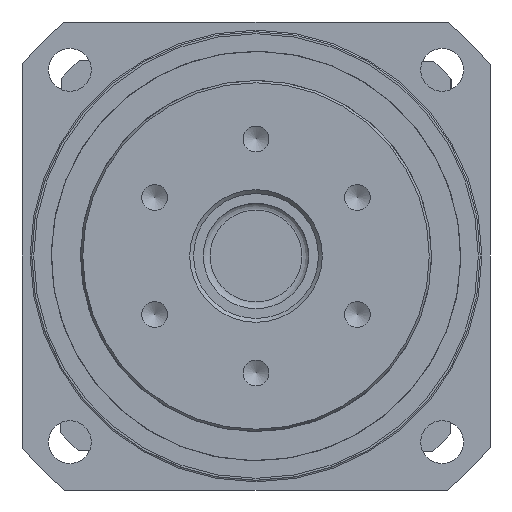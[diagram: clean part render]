
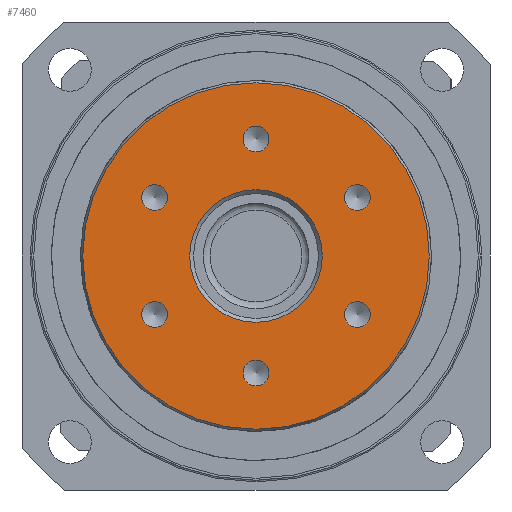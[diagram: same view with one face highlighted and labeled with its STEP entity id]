
A CAD part, left-side view. The second image highlights one B-rep face of the part: STEP entity #7460.
In plain terms, the highlighted planar face has unit normal (-1, 0, 0).
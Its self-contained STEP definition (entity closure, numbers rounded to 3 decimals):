
#670=FACE_BOUND('',#2014,.T.);
#671=FACE_BOUND('',#2015,.T.);
#672=FACE_BOUND('',#2016,.T.);
#673=FACE_BOUND('',#2017,.T.);
#674=FACE_BOUND('',#2018,.T.);
#675=FACE_BOUND('',#2019,.T.);
#676=FACE_BOUND('',#2020,.T.);
#1388=PLANE('',#8393);
#1565=FACE_OUTER_BOUND('',#2013,.T.);
#2013=EDGE_LOOP('',(#5529));
#2014=EDGE_LOOP('',(#5530,#5531));
#2015=EDGE_LOOP('',(#5532,#5533));
#2016=EDGE_LOOP('',(#5534,#5535));
#2017=EDGE_LOOP('',(#5536,#5537));
#2018=EDGE_LOOP('',(#5538,#5539));
#2019=EDGE_LOOP('',(#5540,#5541));
#2020=EDGE_LOOP('',(#5542));
#2589=CIRCLE('',#8357,3.324);
#2590=CIRCLE('',#8358,3.324);
#2593=CIRCLE('',#8363,3.324);
#2594=CIRCLE('',#8364,3.324);
#2597=CIRCLE('',#8369,3.324);
#2598=CIRCLE('',#8370,3.324);
#2601=CIRCLE('',#8375,3.324);
#2602=CIRCLE('',#8376,3.324);
#2605=CIRCLE('',#8381,3.324);
#2606=CIRCLE('',#8382,3.324);
#2609=CIRCLE('',#8387,3.324);
#2610=CIRCLE('',#8388,3.324);
#2611=CIRCLE('',#8390,17.);
#2614=CIRCLE('',#8394,44.423);
#3351=VERTEX_POINT('',#12429);
#3352=VERTEX_POINT('',#12430);
#3356=VERTEX_POINT('',#12442);
#3357=VERTEX_POINT('',#12443);
#3361=VERTEX_POINT('',#12455);
#3362=VERTEX_POINT('',#12456);
#3366=VERTEX_POINT('',#12468);
#3367=VERTEX_POINT('',#12469);
#3371=VERTEX_POINT('',#12481);
#3372=VERTEX_POINT('',#12482);
#3376=VERTEX_POINT('',#12494);
#3377=VERTEX_POINT('',#12495);
#3378=VERTEX_POINT('',#12500);
#3381=VERTEX_POINT('',#12508);
#4253=EDGE_CURVE('',#3351,#3352,#2589,.T.);
#4254=EDGE_CURVE('',#3352,#3351,#2590,.T.);
#4259=EDGE_CURVE('',#3356,#3357,#2593,.T.);
#4260=EDGE_CURVE('',#3357,#3356,#2594,.T.);
#4265=EDGE_CURVE('',#3361,#3362,#2597,.T.);
#4266=EDGE_CURVE('',#3362,#3361,#2598,.T.);
#4271=EDGE_CURVE('',#3366,#3367,#2601,.T.);
#4272=EDGE_CURVE('',#3367,#3366,#2602,.T.);
#4277=EDGE_CURVE('',#3371,#3372,#2605,.T.);
#4278=EDGE_CURVE('',#3372,#3371,#2606,.T.);
#4283=EDGE_CURVE('',#3376,#3377,#2609,.T.);
#4284=EDGE_CURVE('',#3377,#3376,#2610,.T.);
#4286=EDGE_CURVE('',#3378,#3378,#2611,.T.);
#4290=EDGE_CURVE('',#3381,#3381,#2614,.T.);
#5529=ORIENTED_EDGE('',*,*,#4290,.F.);
#5530=ORIENTED_EDGE('',*,*,#4253,.T.);
#5531=ORIENTED_EDGE('',*,*,#4254,.T.);
#5532=ORIENTED_EDGE('',*,*,#4259,.T.);
#5533=ORIENTED_EDGE('',*,*,#4260,.T.);
#5534=ORIENTED_EDGE('',*,*,#4265,.T.);
#5535=ORIENTED_EDGE('',*,*,#4266,.T.);
#5536=ORIENTED_EDGE('',*,*,#4271,.T.);
#5537=ORIENTED_EDGE('',*,*,#4272,.T.);
#5538=ORIENTED_EDGE('',*,*,#4277,.T.);
#5539=ORIENTED_EDGE('',*,*,#4278,.T.);
#5540=ORIENTED_EDGE('',*,*,#4283,.T.);
#5541=ORIENTED_EDGE('',*,*,#4284,.T.);
#5542=ORIENTED_EDGE('',*,*,#4286,.F.);
#7460=ADVANCED_FACE('',(#1565,#670,#671,#672,#673,#674,#675,#676),#1388,
 .T.);
#8357=AXIS2_PLACEMENT_3D('',#12431,#9752,#9753);
#8358=AXIS2_PLACEMENT_3D('',#12432,#9754,#9755);
#8363=AXIS2_PLACEMENT_3D('',#12444,#9766,#9767);
#8364=AXIS2_PLACEMENT_3D('',#12445,#9768,#9769);
#8369=AXIS2_PLACEMENT_3D('',#12457,#9780,#9781);
#8370=AXIS2_PLACEMENT_3D('',#12458,#9782,#9783);
#8375=AXIS2_PLACEMENT_3D('',#12470,#9794,#9795);
#8376=AXIS2_PLACEMENT_3D('',#12471,#9796,#9797);
#8381=AXIS2_PLACEMENT_3D('',#12483,#9808,#9809);
#8382=AXIS2_PLACEMENT_3D('',#12484,#9810,#9811);
#8387=AXIS2_PLACEMENT_3D('',#12496,#9822,#9823);
#8388=AXIS2_PLACEMENT_3D('',#12497,#9824,#9825);
#8390=AXIS2_PLACEMENT_3D('',#12501,#9829,#9830);
#8393=AXIS2_PLACEMENT_3D('',#12507,#9836,#9837);
#8394=AXIS2_PLACEMENT_3D('',#12509,#9838,#9839);
#9752=DIRECTION('center_axis',(1.,0.,0.));
#9753=DIRECTION('ref_axis',(0.,0.866,0.5));
#9754=DIRECTION('center_axis',(1.,0.,0.));
#9755=DIRECTION('ref_axis',(0.,0.866,0.5));
#9766=DIRECTION('center_axis',(1.,0.,0.));
#9767=DIRECTION('ref_axis',(0.,0.866,-0.5));
#9768=DIRECTION('center_axis',(1.,0.,0.));
#9769=DIRECTION('ref_axis',(0.,0.866,-0.5));
#9780=DIRECTION('center_axis',(1.,0.,0.));
#9781=DIRECTION('ref_axis',(0.,0.,-1.));
#9782=DIRECTION('center_axis',(1.,0.,0.));
#9783=DIRECTION('ref_axis',(0.,0.,-1.));
#9794=DIRECTION('center_axis',(1.,0.,0.));
#9795=DIRECTION('ref_axis',(0.,-0.866,-0.5));
#9796=DIRECTION('center_axis',(1.,0.,0.));
#9797=DIRECTION('ref_axis',(0.,-0.866,-0.5));
#9808=DIRECTION('center_axis',(1.,0.,0.));
#9809=DIRECTION('ref_axis',(0.,-0.866,0.5));
#9810=DIRECTION('center_axis',(1.,0.,0.));
#9811=DIRECTION('ref_axis',(0.,-0.866,0.5));
#9822=DIRECTION('center_axis',(1.,0.,0.));
#9823=DIRECTION('ref_axis',(0.,0.,1.));
#9824=DIRECTION('center_axis',(1.,0.,0.));
#9825=DIRECTION('ref_axis',(0.,0.,1.));
#9829=DIRECTION('center_axis',(-1.,0.,0.));
#9830=DIRECTION('ref_axis',(0.,-1.,0.));
#9836=DIRECTION('center_axis',(-1.,0.,0.));
#9837=DIRECTION('ref_axis',(0.,0.,1.));
#9838=DIRECTION('center_axis',(1.,0.,0.));
#9839=DIRECTION('ref_axis',(0.,-1.,0.));
#12429=CARTESIAN_POINT('',(0.,28.859,16.662));
#12430=CARTESIAN_POINT('',(0.,23.103,13.338));
#12431=CARTESIAN_POINT('Origin',(0.,25.981,15.));
#12432=CARTESIAN_POINT('Origin',(0.,25.981,15.));
#12442=CARTESIAN_POINT('',(0.,28.859,-16.662));
#12443=CARTESIAN_POINT('',(0.,23.103,-13.338));
#12444=CARTESIAN_POINT('Origin',(0.,25.981,-15.));
#12445=CARTESIAN_POINT('Origin',(0.,25.981,-15.));
#12455=CARTESIAN_POINT('',(0.,0.,-33.324));
#12456=CARTESIAN_POINT('',(0.,0.,-26.677));
#12457=CARTESIAN_POINT('Origin',(0.,0.,-30.));
#12458=CARTESIAN_POINT('Origin',(0.,0.,-30.));
#12468=CARTESIAN_POINT('',(0.,-28.859,-16.662));
#12469=CARTESIAN_POINT('',(0.,-23.103,-13.338));
#12470=CARTESIAN_POINT('Origin',(0.,-25.981,-15.));
#12471=CARTESIAN_POINT('Origin',(0.,-25.981,-15.));
#12481=CARTESIAN_POINT('',(0.,-28.859,16.662));
#12482=CARTESIAN_POINT('',(0.,-23.103,13.338));
#12483=CARTESIAN_POINT('Origin',(0.,-25.981,15.));
#12484=CARTESIAN_POINT('Origin',(0.,-25.981,15.));
#12494=CARTESIAN_POINT('',(0.,0.,33.324));
#12495=CARTESIAN_POINT('',(0.,0.,26.677));
#12496=CARTESIAN_POINT('Origin',(0.,0.,30.));
#12497=CARTESIAN_POINT('Origin',(0.,0.,30.));
#12500=CARTESIAN_POINT('',(0.,17.,0.));
#12501=CARTESIAN_POINT('Origin',(0.,0.,0.));
#12507=CARTESIAN_POINT('Origin',(0.,45.,0.));
#12508=CARTESIAN_POINT('',(0.,44.423,0.));
#12509=CARTESIAN_POINT('Origin',(0.,0.,0.));
